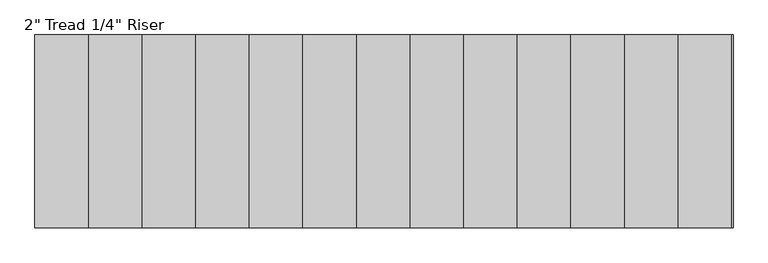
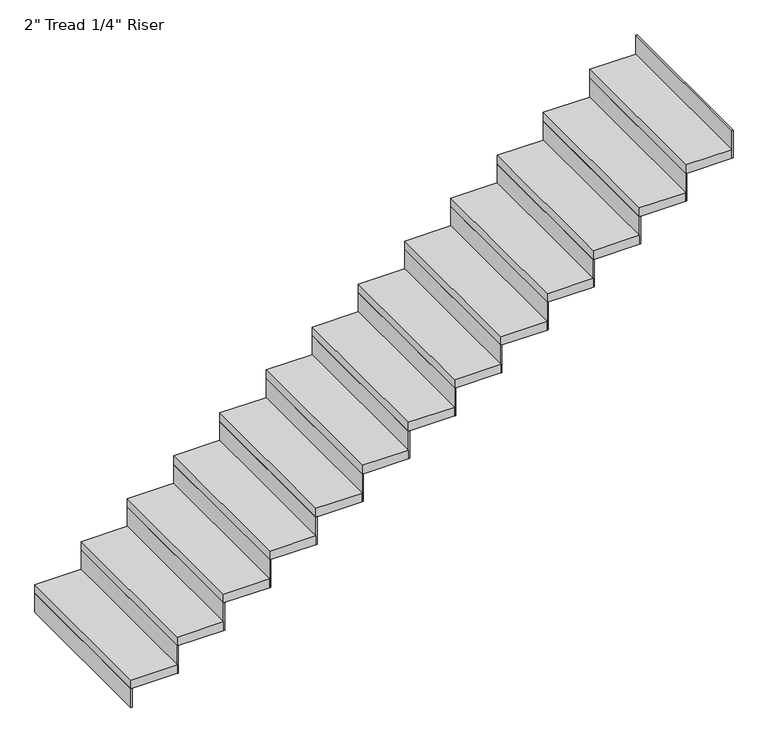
"""IFC4 building model written with IfcOpenShell, lengths in millimetres: stair flight geometry."""

from ifc_helpers import new_model, si_unit, frame, origin, origin_with_axes, place, context, project, spatial, polyline, outline, extrude, source, transform, mapped, element, save


def stair_flight_25ebc553(model_context):
    return source(origin(), model_context, "Body", "SweptSolid", [
        extrude(outline(polyline([(135315.4444894, -35451.4428514), (135309.0944894, -35451.4428514), (135309.0944894, -34537.0428514), (135315.4444894, -34537.0428514), (135315.4444894, -35451.4428514)])), origin_with_axes(), (0.0, 0.0, 1.0), 109.6210526),
        extrude(outline(polyline([(135563.0944894, -34537.0428514), (135563.0944894, -35451.4428514), (135309.0944894, -35451.4428514), (135309.0944894, -34537.0428514), (135563.0944894, -34537.0428514)])), frame((0.0, 0.0, 109.6210526), z_axis=(0.0, 0.0, 1.0), x_axis=(1.0, 0.0, 0.0)), (0.0, 0.0, 1.0), 50.8),
        extrude(outline(polyline([(135569.4444894, -35451.4428514), (135563.0944894, -35451.4428514), (135563.0944894, -34537.0428514), (135569.4444894, -34537.0428514), (135569.4444894, -35451.4428514)])), frame((0.0, 0.0, 109.6210526), z_axis=(0.0, 0.0, 1.0), x_axis=(1.0, 0.0, 0.0)), (0.0, 0.0, 1.0), 160.4210526),
        extrude(outline(polyline([(135817.0944894, -34537.0428514), (135817.0944894, -35451.4428514), (135563.0944894, -35451.4428514), (135563.0944894, -34537.0428514), (135817.0944894, -34537.0428514)])), frame((0.0, 0.0, 270.0421053), z_axis=(0.0, 0.0, 1.0), x_axis=(1.0, 0.0, 0.0)), (0.0, 0.0, 1.0), 50.8),
        extrude(outline(polyline([(135823.4444894, -35451.4428514), (135817.0944894, -35451.4428514), (135817.0944894, -34537.0428514), (135823.4444894, -34537.0428514), (135823.4444894, -35451.4428514)])), frame((0.0, 0.0, 270.0421053), z_axis=(0.0, 0.0, 1.0), x_axis=(1.0, 0.0, 0.0)), (0.0, 0.0, 1.0), 160.4210526),
        extrude(outline(polyline([(136071.0944894, -34537.0428514), (136071.0944894, -35451.4428514), (135817.0944894, -35451.4428514), (135817.0944894, -34537.0428514), (136071.0944894, -34537.0428514)])), frame((0.0, 0.0, 430.4631579), z_axis=(0.0, 0.0, 1.0), x_axis=(1.0, 0.0, 0.0)), (0.0, 0.0, 1.0), 50.8),
        extrude(outline(polyline([(136077.4444894, -35451.4428514), (136071.0944894, -35451.4428514), (136071.0944894, -34537.0428514), (136077.4444894, -34537.0428514), (136077.4444894, -35451.4428514)])), frame((0.0, 0.0, 430.4631579), z_axis=(0.0, 0.0, 1.0), x_axis=(1.0, 0.0, 0.0)), (0.0, 0.0, 1.0), 160.4210526),
        extrude(outline(polyline([(136325.0944894, -34537.0428514), (136325.0944894, -35451.4428514), (136071.0944894, -35451.4428514), (136071.0944894, -34537.0428514), (136325.0944894, -34537.0428514)])), frame((0.0, 0.0, 590.8842105), z_axis=(0.0, 0.0, 1.0), x_axis=(1.0, 0.0, 0.0)), (0.0, 0.0, 1.0), 50.8),
        extrude(outline(polyline([(136331.4444894, -35451.4428514), (136325.0944894, -35451.4428514), (136325.0944894, -34537.0428514), (136331.4444894, -34537.0428514), (136331.4444894, -35451.4428514)])), frame((0.0, 0.0, 590.8842105), z_axis=(0.0, 0.0, 1.0), x_axis=(1.0, 0.0, 0.0)), (0.0, 0.0, 1.0), 160.4210526),
        extrude(outline(polyline([(136579.0944894, -34537.0428514), (136579.0944894, -35451.4428514), (136325.0944894, -35451.4428514), (136325.0944894, -34537.0428514), (136579.0944894, -34537.0428514)])), frame((0.0, 0.0, 751.3052632), z_axis=(0.0, 0.0, 1.0), x_axis=(1.0, 0.0, 0.0)), (0.0, 0.0, 1.0), 50.8),
        extrude(outline(polyline([(136585.4444894, -35451.4428514), (136579.0944894, -35451.4428514), (136579.0944894, -34537.0428514), (136585.4444894, -34537.0428514), (136585.4444894, -35451.4428514)])), frame((0.0, 0.0, 751.3052632), z_axis=(0.0, 0.0, 1.0), x_axis=(1.0, 0.0, 0.0)), (0.0, 0.0, 1.0), 160.4210526),
        extrude(outline(polyline([(136833.0944894, -34537.0428514), (136833.0944894, -35451.4428514), (136579.0944894, -35451.4428514), (136579.0944894, -34537.0428514), (136833.0944894, -34537.0428514)])), frame((0.0, 0.0, 911.7263158), z_axis=(0.0, 0.0, 1.0), x_axis=(1.0, 0.0, 0.0)), (0.0, 0.0, 1.0), 50.8),
        extrude(outline(polyline([(136839.4444894, -35451.4428514), (136833.0944894, -35451.4428514), (136833.0944894, -34537.0428514), (136839.4444894, -34537.0428514), (136839.4444894, -35451.4428514)])), frame((0.0, 0.0, 911.7263158), z_axis=(0.0, 0.0, 1.0), x_axis=(1.0, 0.0, 0.0)), (0.0, 0.0, 1.0), 160.4210526),
        extrude(outline(polyline([(137087.0944894, -34537.0428514), (137087.0944894, -35451.4428514), (136833.0944894, -35451.4428514), (136833.0944894, -34537.0428514), (137087.0944894, -34537.0428514)])), frame((0.0, 0.0, 1072.1473684), z_axis=(0.0, 0.0, 1.0), x_axis=(1.0, 0.0, 0.0)), (0.0, 0.0, 1.0), 50.8),
        extrude(outline(polyline([(137093.4444894, -35451.4428514), (137087.0944894, -35451.4428514), (137087.0944894, -34537.0428514), (137093.4444894, -34537.0428514), (137093.4444894, -35451.4428514)])), frame((0.0, 0.0, 1072.1473684), z_axis=(0.0, 0.0, 1.0), x_axis=(1.0, 0.0, 0.0)), (0.0, 0.0, 1.0), 160.4210526),
        extrude(outline(polyline([(137341.0944894, -34537.0428514), (137341.0944894, -35451.4428514), (137087.0944894, -35451.4428514), (137087.0944894, -34537.0428514), (137341.0944894, -34537.0428514)])), frame((0.0, 0.0, 1232.5684211), z_axis=(0.0, 0.0, 1.0), x_axis=(1.0, 0.0, 0.0)), (0.0, 0.0, 1.0), 50.8),
        extrude(outline(polyline([(137347.4444894, -35451.4428514), (137341.0944894, -35451.4428514), (137341.0944894, -34537.0428514), (137347.4444894, -34537.0428514), (137347.4444894, -35451.4428514)])), frame((0.0, 0.0, 1232.5684211), z_axis=(0.0, 0.0, 1.0), x_axis=(1.0, 0.0, 0.0)), (0.0, 0.0, 1.0), 160.4210526),
        extrude(outline(polyline([(137595.0944894, -34537.0428514), (137595.0944894, -35451.4428514), (137341.0944894, -35451.4428514), (137341.0944894, -34537.0428514), (137595.0944894, -34537.0428514)])), frame((0.0, 0.0, 1392.9894737), z_axis=(0.0, 0.0, 1.0), x_axis=(1.0, 0.0, 0.0)), (0.0, 0.0, 1.0), 50.8),
        extrude(outline(polyline([(137601.4444894, -35451.4428514), (137595.0944894, -35451.4428514), (137595.0944894, -34537.0428514), (137601.4444894, -34537.0428514), (137601.4444894, -35451.4428514)])), frame((0.0, 0.0, 1392.9894737), z_axis=(0.0, 0.0, 1.0), x_axis=(1.0, 0.0, 0.0)), (0.0, 0.0, 1.0), 160.4210526),
        extrude(outline(polyline([(137849.0944894, -34537.0428514), (137849.0944894, -35451.4428514), (137595.0944894, -35451.4428514), (137595.0944894, -34537.0428514), (137849.0944894, -34537.0428514)])), frame((0.0, 0.0, 1553.4105263), z_axis=(0.0, 0.0, 1.0), x_axis=(1.0, 0.0, 0.0)), (0.0, 0.0, 1.0), 50.8),
        extrude(outline(polyline([(137855.4444894, -35451.4428514), (137849.0944894, -35451.4428514), (137849.0944894, -34537.0428514), (137855.4444894, -34537.0428514), (137855.4444894, -35451.4428514)])), frame((0.0, 0.0, 1553.4105263), z_axis=(0.0, 0.0, 1.0), x_axis=(1.0, 0.0, 0.0)), (0.0, 0.0, 1.0), 160.4210526),
        extrude(outline(polyline([(138103.0944894, -34537.0428514), (138103.0944894, -35451.4428514), (137849.0944894, -35451.4428514), (137849.0944894, -34537.0428514), (138103.0944894, -34537.0428514)])), frame((0.0, 0.0, 1713.8315789), z_axis=(0.0, 0.0, 1.0), x_axis=(1.0, 0.0, 0.0)), (0.0, 0.0, 1.0), 50.8),
        extrude(outline(polyline([(138109.4444894, -35451.4428514), (138103.0944894, -35451.4428514), (138103.0944894, -34537.0428514), (138109.4444894, -34537.0428514), (138109.4444894, -35451.4428514)])), frame((0.0, 0.0, 1713.8315789), z_axis=(0.0, 0.0, 1.0), x_axis=(1.0, 0.0, 0.0)), (0.0, 0.0, 1.0), 160.4210526),
        extrude(outline(polyline([(138357.0944894, -34537.0428514), (138357.0944894, -35451.4428514), (138103.0944894, -35451.4428514), (138103.0944894, -34537.0428514), (138357.0944894, -34537.0428514)])), frame((0.0, 0.0, 1874.2526316), z_axis=(0.0, 0.0, 1.0), x_axis=(1.0, 0.0, 0.0)), (0.0, 0.0, 1.0), 50.8),
        extrude(outline(polyline([(138363.4444894, -35451.4428514), (138357.0944894, -35451.4428514), (138357.0944894, -34537.0428514), (138363.4444894, -34537.0428514), (138363.4444894, -35451.4428514)])), frame((0.0, 0.0, 1874.2526316), z_axis=(0.0, 0.0, 1.0), x_axis=(1.0, 0.0, 0.0)), (0.0, 0.0, 1.0), 160.4210526),
        extrude(outline(polyline([(138617.4444894, -35451.4428514), (138611.0944894, -35451.4428514), (138611.0944894, -34537.0428514), (138617.4444894, -34537.0428514), (138617.4444894, -35451.4428514)])), frame((0.0, 0.0, 2034.6736842), z_axis=(0.0, 0.0, 1.0), x_axis=(1.0, 0.0, 0.0)), (0.0, 0.0, 1.0), 160.4210526),
        extrude(outline(polyline([(138611.0944894, -34537.0428514), (138611.0944894, -35451.4428514), (138357.0944894, -35451.4428514), (138357.0944894, -34537.0428514), (138611.0944894, -34537.0428514)])), frame((0.0, 0.0, 2034.6736842), z_axis=(0.0, 0.0, 1.0), x_axis=(1.0, 0.0, 0.0)), (0.0, 0.0, 1.0), 50.8),
    ])


if __name__ == "__main__":
    model = new_model("IFC4")
    model_context = context("Model", 3, world=origin())
    ifc_project = project(units=[si_unit("LENGTHUNIT", "METRE", prefix="MILLI")], contexts=[model_context])
    site = spatial("IfcSite", under=ifc_project)
    building = spatial("IfcBuilding", under=site)
    placement = place(None, origin())
    stair_flight_shape = stair_flight_25ebc553(model_context)
    element("IfcStairFlight", 1, ObjectType="2\" Tread 1/4\" Riser", at=placement, inside=building, context=model_context, shape_type="MappedRepresentation", body=[
        mapped(stair_flight_shape, transform((0.0, 0.0, 0.0), x_axis=(1.0, 0.0, 0.0), y_axis=(0.0, 1.0, 0.0), z_axis=(0.0, 0.0, 1.0))),
    ])
    save(model, "model.ifc")
